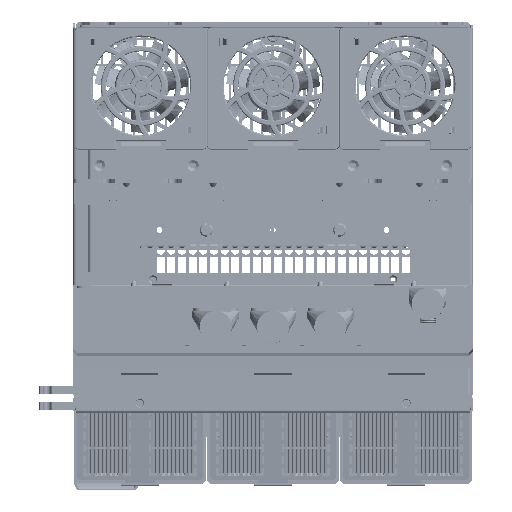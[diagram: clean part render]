
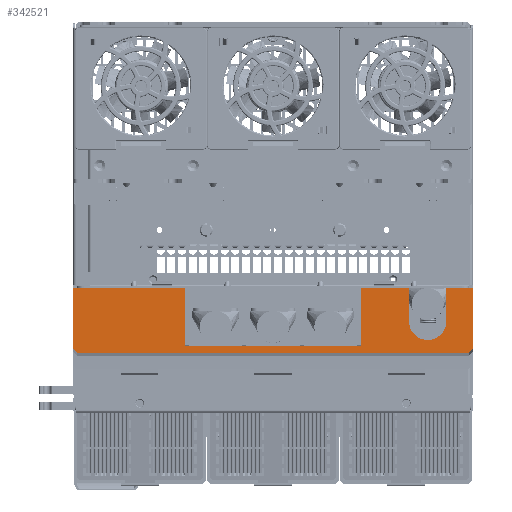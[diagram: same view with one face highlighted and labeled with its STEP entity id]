
A CAD part, left-side view. The second image highlights one B-rep face of the part: STEP entity #342521.
In plain terms, the highlighted planar face has unit normal (-1, 0, 0) as drawn and (0, -1, 0) by its records, which use the part's own axes.
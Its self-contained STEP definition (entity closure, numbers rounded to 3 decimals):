
#332838=CARTESIAN_POINT('',(-116.,-33.5,25.));
#332839=DIRECTION('',(0.,-1.,0.));
#332840=DIRECTION('',(1.,0.,0.));
#332841=AXIS2_PLACEMENT_3D('',#332838,#332839,#332840);
#332843=DIRECTION('',(0.,0.,-1.));
#332844=VECTOR('',#332843,25.);
#332845=CARTESIAN_POINT('',(-130.,-33.5,25.));
#332846=LINE('',#332845,#332844);
#332847=DIRECTION('',(-1.,0.,0.));
#332848=VECTOR('',#332847,19.75);
#332849=CARTESIAN_POINT('',(-130.,-33.5,0.));
#332850=LINE('',#332849,#332848);
#332851=DIRECTION('',(0.,0.,1.));
#332852=VECTOR('',#332851,45.996);
#332853=CARTESIAN_POINT('',(-149.75,-33.5,0.));
#332854=LINE('',#332853,#332852);
#332855=DIRECTION('',(0.707,0.,0.708));
#332856=VECTOR('',#332855,4.246);
#332857=CARTESIAN_POINT('',(-149.75,-33.5,45.996));
#332858=LINE('',#332857,#332856);
#332859=DIRECTION('',(0.707,0.,-0.708));
#332860=VECTOR('',#332859,4.246);
#332861=CARTESIAN_POINT('',(146.75,-33.5,49.));
#332862=LINE('',#332861,#332860);
#332863=DIRECTION('',(-1.,0.,0.));
#332864=VECTOR('',#332863,83.45);
#332865=CARTESIAN_POINT('',(149.75,-33.5,0.));
#332866=LINE('',#332865,#332864);
#332867=DIRECTION('',(-1.,0.,0.));
#332868=VECTOR('',#332867,35.7);
#332869=CARTESIAN_POINT('',(-66.3,-33.5,0.));
#332870=LINE('',#332869,#332868);
#333337=DIRECTION('',(0.,0.,-1.));
#333338=VECTOR('',#333337,25.);
#333339=CARTESIAN_POINT('',(-102.,-33.5,25.));
#333340=LINE('',#333339,#333338);
#333353=DIRECTION('',(0.,0.,1.));
#333354=VECTOR('',#333353,43.5);
#333355=CARTESIAN_POINT('',(-66.3,-33.5,0.));
#333356=LINE('',#333355,#333354);
#333361=DIRECTION('',(1.,0.,0.));
#333362=VECTOR('',#333361,132.6);
#333363=CARTESIAN_POINT('',(-66.3,-33.5,43.5));
#333364=LINE('',#333363,#333362);
#333373=DIRECTION('',(0.,0.,-1.));
#333374=VECTOR('',#333373,43.5);
#333375=CARTESIAN_POINT('',(66.3,-33.5,43.5));
#333376=LINE('',#333375,#333374);
#333465=DIRECTION('',(0.,0.,1.));
#333466=VECTOR('',#333465,45.996);
#333467=CARTESIAN_POINT('',(149.75,-33.5,0.));
#333468=LINE('',#333467,#333466);
#336997=DIRECTION('',(-1.,0.,0.));
#336998=VECTOR('',#336997,293.5);
#336999=CARTESIAN_POINT('',(146.75,-33.5,49.));
#337000=LINE('',#336999,#336998);
#338862=CARTESIAN_POINT('',(-149.75,-33.5,45.996));
#338863=VERTEX_POINT('',#338862);
#338864=CARTESIAN_POINT('',(-149.75,-33.5,0.));
#338865=VERTEX_POINT('',#338864);
#339590=CARTESIAN_POINT('',(-102.,-33.5,0.));
#339591=VERTEX_POINT('',#339590);
#339592=CARTESIAN_POINT('',(-66.3,-33.5,0.));
#339593=VERTEX_POINT('',#339592);
#339602=CARTESIAN_POINT('',(-130.,-33.5,0.));
#339603=VERTEX_POINT('',#339602);
#339640=CARTESIAN_POINT('',(66.3,-33.5,0.));
#339641=VERTEX_POINT('',#339640);
#339642=CARTESIAN_POINT('',(149.75,-33.5,0.));
#339643=VERTEX_POINT('',#339642);
#339823=CARTESIAN_POINT('',(149.75,-33.5,45.996));
#339824=VERTEX_POINT('',#339823);
#339877=CARTESIAN_POINT('',(-102.,-33.5,25.));
#339878=CARTESIAN_POINT('',(-130.,-33.5,25.));
#339879=VERTEX_POINT('',#339877);
#339880=VERTEX_POINT('',#339878);
#339881=CARTESIAN_POINT('',(-146.75,-33.5,49.));
#339882=VERTEX_POINT('',#339881);
#339883=CARTESIAN_POINT('',(146.75,-33.5,49.));
#339884=VERTEX_POINT('',#339883);
#339885=CARTESIAN_POINT('',(66.3,-33.5,43.5));
#339886=VERTEX_POINT('',#339885);
#339887=CARTESIAN_POINT('',(-66.3,-33.5,43.5));
#339888=VERTEX_POINT('',#339887);
#342488=CARTESIAN_POINT('',(-149.75,-33.5,49.));
#342489=DIRECTION('',(0.,-1.,0.));
#342490=DIRECTION('',(0.,0.,-1.));
#342491=AXIS2_PLACEMENT_3D('',#342488,#342489,#342490);
#342492=PLANE('',#342491);
#342494=ORIENTED_EDGE('',*,*,#342493,.T.);
#342496=ORIENTED_EDGE('',*,*,#342495,.T.);
#342497=ORIENTED_EDGE('',*,*,#342478,.T.);
#342498=ORIENTED_EDGE('',*,*,#341474,.T.);
#342500=ORIENTED_EDGE('',*,*,#342499,.T.);
#342502=ORIENTED_EDGE('',*,*,#342501,.F.);
#342504=ORIENTED_EDGE('',*,*,#342503,.T.);
#342506=ORIENTED_EDGE('',*,*,#342505,.F.);
#342508=ORIENTED_EDGE('',*,*,#342507,.T.);
#342510=ORIENTED_EDGE('',*,*,#342509,.F.);
#342512=ORIENTED_EDGE('',*,*,#342511,.F.);
#342514=ORIENTED_EDGE('',*,*,#342513,.F.);
#342516=ORIENTED_EDGE('',*,*,#342515,.T.);
#342518=ORIENTED_EDGE('',*,*,#342517,.F.);
#342519=EDGE_LOOP('',(#342494,#342496,#342497,#342498,#342500,#342502,#342504,
#342506,#342508,#342510,#342512,#342514,#342516,#342518));
#342520=FACE_OUTER_BOUND('',#342519,.F.);
#332842=CIRCLE('',#332841,14.);
#341474=EDGE_CURVE('',#338865,#338863,#332854,.T.);
#342478=EDGE_CURVE('',#339603,#338865,#332850,.T.);
#342493=EDGE_CURVE('',#339879,#339880,#332842,.T.);
#342495=EDGE_CURVE('',#339880,#339603,#332846,.T.);
#342499=EDGE_CURVE('',#338863,#339882,#332858,.T.);
#342501=EDGE_CURVE('',#339884,#339882,#337000,.T.);
#342503=EDGE_CURVE('',#339884,#339824,#332862,.T.);
#342505=EDGE_CURVE('',#339643,#339824,#333468,.T.);
#342507=EDGE_CURVE('',#339643,#339641,#332866,.T.);
#342509=EDGE_CURVE('',#339886,#339641,#333376,.T.);
#342511=EDGE_CURVE('',#339888,#339886,#333364,.T.);
#342513=EDGE_CURVE('',#339593,#339888,#333356,.T.);
#342515=EDGE_CURVE('',#339593,#339591,#332870,.T.);
#342517=EDGE_CURVE('',#339879,#339591,#333340,.T.);
#342521=ADVANCED_FACE('',(#342520),#342492,.T.);
